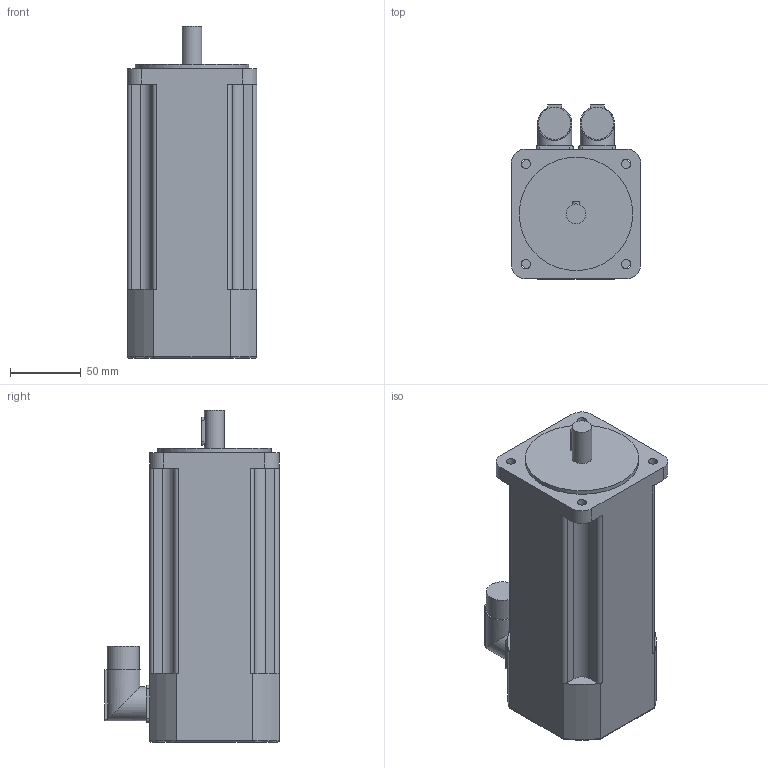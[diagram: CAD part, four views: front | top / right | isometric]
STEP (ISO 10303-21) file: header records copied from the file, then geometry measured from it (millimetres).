
FILE_DESCRIPTION(/* description */ (''),/* implementation_level */ '2;1');
FILE_NAME(/* name */ '\\Lafnas01\disegni\Archivi Lafert\3D\CAD 3D\MODELLI\Assiemi clienti\Serad\Modelli 3D Serad\B56Q\Encoder\Enc With Brake\B56G5Qxx6BRx2033.ipt.stp',/* time_stamp */ '2015-09-07T10:50:10+02:00',/* author */ ('Pastrello Ylenia'),/* organization */ (''),/* preprocessor_version */ 'ST-DEVELOPER v15.6',/* originating_system */ 'Autodesk Inventor 2015',/* authorisation */ '');
FILE_SCHEMA (('AUTOMOTIVE_DESIGN { 1 0 10303 214 3 1 1 }'));
Length unit declared in the file: millimetre
Products named in the file (1): B56G5Qxx6BRx2033
Bounding box: 91.3 x 122.8 x 234 mm (x, y, z)
Volume: 1571061.4 mm3; surface area: 98213.9 mm2
Topology: 1 solids, 1 shells, 99 faces, 260 edges, 170 vertices
Faces by surface type: plane 49, cylinder 46, torus 4
Full cylindrical faces by diameter (mm): 6.5 x4, 14 x1, 22.7 x2, 24 x2, 80 x1
Entity records: 3176 total; most frequent: CARTESIAN_POINT 658, DIRECTION 534, ORIENTED_EDGE 500, EDGE_CURVE 250, AXIS2_PLACEMENT_3D 194, VERTEX_POINT 170, LINE 146, VECTOR 146
